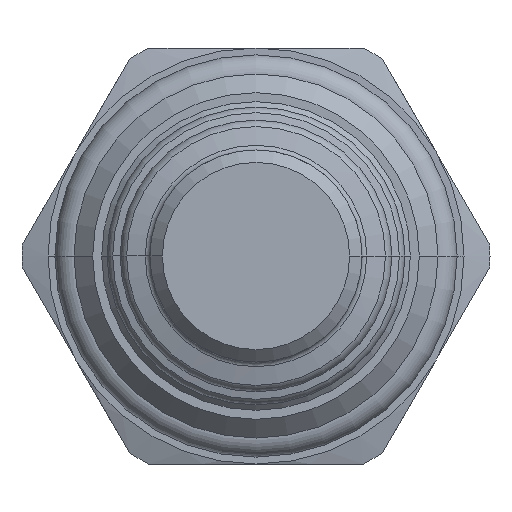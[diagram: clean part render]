
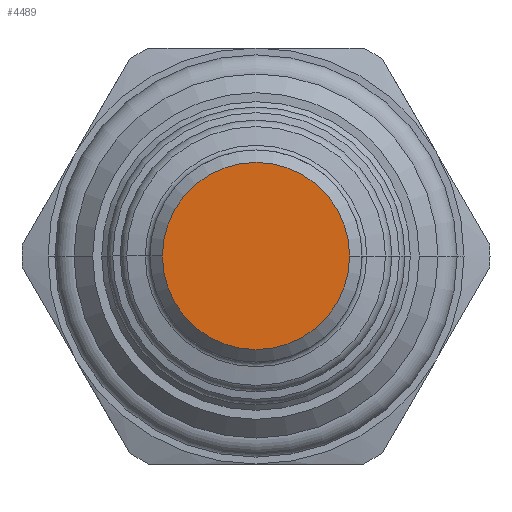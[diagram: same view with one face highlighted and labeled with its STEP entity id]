
A CAD part, front view. The second image highlights one B-rep face of the part: STEP entity #4489.
In plain terms, the highlighted planar face has unit normal (0, -1, 0).
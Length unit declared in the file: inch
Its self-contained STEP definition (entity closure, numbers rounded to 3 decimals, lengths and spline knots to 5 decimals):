
#1367=CARTESIAN_POINT('',(0.,-2.323,0.));
#1368=DIRECTION('',(0.,1.,0.));
#1369=DIRECTION('',(-1.,0.,0.));
#1370=AXIS2_PLACEMENT_3D('',#1367,#1368,#1369);
#1372=CARTESIAN_POINT('',(0.,-2.323,0.));
#1373=DIRECTION('',(0.,1.,0.));
#1374=DIRECTION('',(0.,0.,1.));
#1375=AXIS2_PLACEMENT_3D('',#1372,#1373,#1374);
#1377=CARTESIAN_POINT('',(0.,-2.323,0.));
#1378=DIRECTION('',(0.,1.,0.));
#1379=DIRECTION('',(1.,0.,0.));
#1380=AXIS2_PLACEMENT_3D('',#1377,#1378,#1379);
#1382=CARTESIAN_POINT('',(0.,-2.323,0.));
#1383=DIRECTION('',(0.,1.,0.));
#1384=DIRECTION('',(0.,0.,-1.));
#1385=AXIS2_PLACEMENT_3D('',#1382,#1383,#1384);
#2409=CARTESIAN_POINT('',(-0.225,-2.323,0.));
#2410=VERTEX_POINT('',#2409);
#2411=CARTESIAN_POINT('',(0.225,-2.323,0.));
#2412=CARTESIAN_POINT('',(0.,-2.323,-0.225));
#2413=VERTEX_POINT('',#2411);
#2414=VERTEX_POINT('',#2412);
#2415=CARTESIAN_POINT('',(0.,-2.323,0.225));
#2416=VERTEX_POINT('',#2415);
#4478=CARTESIAN_POINT('',(0.,-2.323,0.));
#4479=DIRECTION('',(0.,-1.,0.));
#4480=DIRECTION('',(-1.,0.,0.));
#4481=AXIS2_PLACEMENT_3D('',#4478,#4479,#4480);
#4482=PLANE('',#4481);
#4483=ORIENTED_EDGE('',*,*,#4472,.T.);
#4484=ORIENTED_EDGE('',*,*,#4470,.T.);
#4485=ORIENTED_EDGE('',*,*,#4455,.T.);
#4486=ORIENTED_EDGE('',*,*,#4453,.T.);
#4487=EDGE_LOOP('',(#4483,#4484,#4485,#4486));
#4488=FACE_OUTER_BOUND('',#4487,.F.);
#4489=ADVANCED_FACE('',(#4488),#4482,.T.);
#1371=CIRCLE('',#1370,0.225);
#1376=CIRCLE('',#1375,0.225);
#1381=CIRCLE('',#1380,0.225);
#1386=CIRCLE('',#1385,0.225);
#4453=EDGE_CURVE('',#2414,#2410,#1386,.T.);
#4455=EDGE_CURVE('',#2413,#2414,#1381,.T.);
#4470=EDGE_CURVE('',#2416,#2413,#1376,.T.);
#4472=EDGE_CURVE('',#2410,#2416,#1371,.T.);
